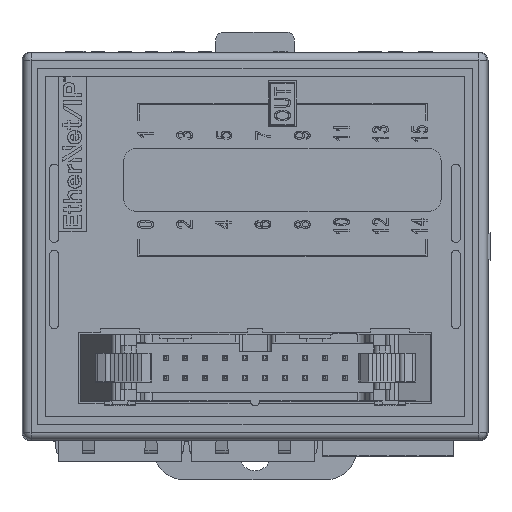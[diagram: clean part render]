
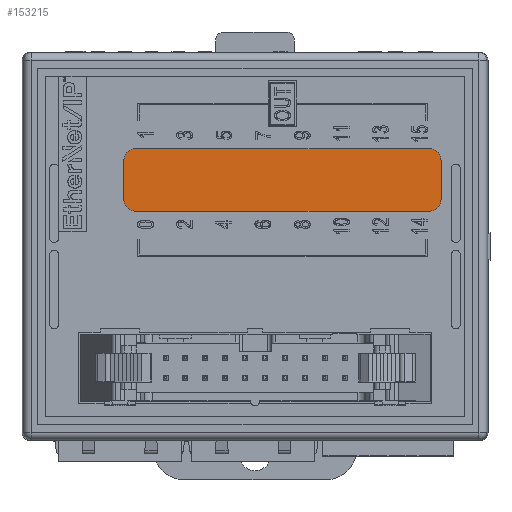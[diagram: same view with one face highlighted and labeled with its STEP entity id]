
A CAD part, top view. The second image highlights one B-rep face of the part: STEP entity #153215.
In plain terms, the highlighted planar face has unit normal (0, 0, 1).
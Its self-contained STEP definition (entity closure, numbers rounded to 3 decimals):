
#45112=DIRECTION('',(-1.,0.,0.));
#45113=VECTOR('',#45112,37.5);
#45114=CARTESIAN_POINT('',(22.25,12.5,30.9));
#45115=LINE('',#45114,#45113);
#45116=CARTESIAN_POINT('',(22.25,11.,30.9));
#45117=DIRECTION('',(0.,0.,1.));
#45118=DIRECTION('',(1.,0.,0.));
#45119=AXIS2_PLACEMENT_3D('',#45116,#45117,#45118);
#45121=DIRECTION('',(0.,1.,0.));
#45122=VECTOR('',#45121,5.);
#45123=CARTESIAN_POINT('',(23.75,6.,30.9));
#45124=LINE('',#45123,#45122);
#45125=CARTESIAN_POINT('',(22.25,6.,30.9));
#45126=DIRECTION('',(0.,0.,1.));
#45127=DIRECTION('',(0.,-1.,0.));
#45128=AXIS2_PLACEMENT_3D('',#45125,#45126,#45127);
#45130=DIRECTION('',(1.,0.,0.));
#45131=VECTOR('',#45130,37.5);
#45132=CARTESIAN_POINT('',(-15.25,4.5,30.9));
#45133=LINE('',#45132,#45131);
#45134=CARTESIAN_POINT('',(-15.25,6.,30.9));
#45135=DIRECTION('',(0.,0.,1.));
#45136=DIRECTION('',(-1.,0.,0.));
#45137=AXIS2_PLACEMENT_3D('',#45134,#45135,#45136);
#45139=DIRECTION('',(0.,-1.,0.));
#45140=VECTOR('',#45139,5.);
#45141=CARTESIAN_POINT('',(-16.75,11.,30.9));
#45142=LINE('',#45141,#45140);
#45143=CARTESIAN_POINT('',(-15.25,11.,30.9));
#45144=DIRECTION('',(0.,0.,1.));
#45145=DIRECTION('',(0.,1.,0.));
#45146=AXIS2_PLACEMENT_3D('',#45143,#45144,#45145);
#55501=CARTESIAN_POINT('',(-15.25,12.5,30.9));
#55502=VERTEX_POINT('',#55501);
#55503=CARTESIAN_POINT('',(22.25,12.5,30.9));
#55504=VERTEX_POINT('',#55503);
#55505=CARTESIAN_POINT('',(23.75,11.,30.9));
#55506=VERTEX_POINT('',#55505);
#55507=CARTESIAN_POINT('',(23.75,6.,30.9));
#55508=VERTEX_POINT('',#55507);
#55509=CARTESIAN_POINT('',(22.25,4.5,30.9));
#55510=VERTEX_POINT('',#55509);
#55511=CARTESIAN_POINT('',(-15.25,4.5,30.9));
#55512=VERTEX_POINT('',#55511);
#55513=CARTESIAN_POINT('',(-16.75,6.,30.9));
#55514=VERTEX_POINT('',#55513);
#55515=CARTESIAN_POINT('',(-16.75,11.,30.9));
#55516=VERTEX_POINT('',#55515);
#153200=CARTESIAN_POINT('',(3.5,8.5,30.9));
#153201=DIRECTION('',(0.,0.,1.));
#153202=DIRECTION('',(1.,0.,0.));
#153203=AXIS2_PLACEMENT_3D('',#153200,#153201,#153202);
#153204=PLANE('',#153203);
#153205=ORIENTED_EDGE('',*,*,#153040,.F.);
#153206=ORIENTED_EDGE('',*,*,#153062,.F.);
#153207=ORIENTED_EDGE('',*,*,#153083,.F.);
#153208=ORIENTED_EDGE('',*,*,#153104,.F.);
#153209=ORIENTED_EDGE('',*,*,#153125,.F.);
#153210=ORIENTED_EDGE('',*,*,#153146,.F.);
#153211=ORIENTED_EDGE('',*,*,#153167,.F.);
#153212=ORIENTED_EDGE('',*,*,#153187,.F.);
#153213=EDGE_LOOP('',(#153205,#153206,#153207,#153208,#153209,#153210,#153211,
#153212));
#153214=FACE_OUTER_BOUND('',#153213,.F.);
#153215=ADVANCED_FACE('',(#153214),#153204,.T.);
#45120=CIRCLE('',#45119,1.5);
#45129=CIRCLE('',#45128,1.5);
#45138=CIRCLE('',#45137,1.5);
#45147=CIRCLE('',#45146,1.5);
#153040=EDGE_CURVE('',#55504,#55502,#45115,.T.);
#153062=EDGE_CURVE('',#55506,#55504,#45120,.T.);
#153083=EDGE_CURVE('',#55508,#55506,#45124,.T.);
#153104=EDGE_CURVE('',#55510,#55508,#45129,.T.);
#153125=EDGE_CURVE('',#55512,#55510,#45133,.T.);
#153146=EDGE_CURVE('',#55514,#55512,#45138,.T.);
#153167=EDGE_CURVE('',#55516,#55514,#45142,.T.);
#153187=EDGE_CURVE('',#55502,#55516,#45147,.T.);
